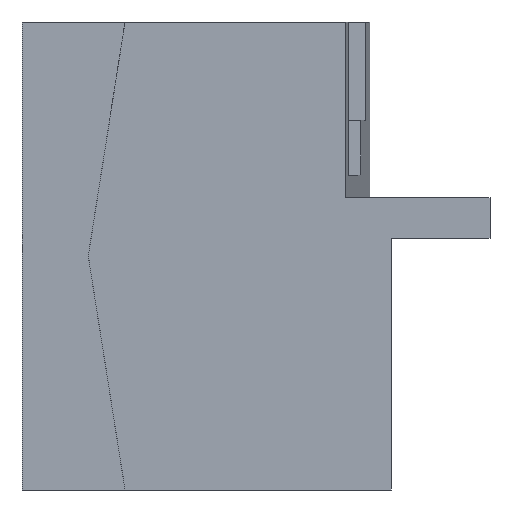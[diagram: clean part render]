
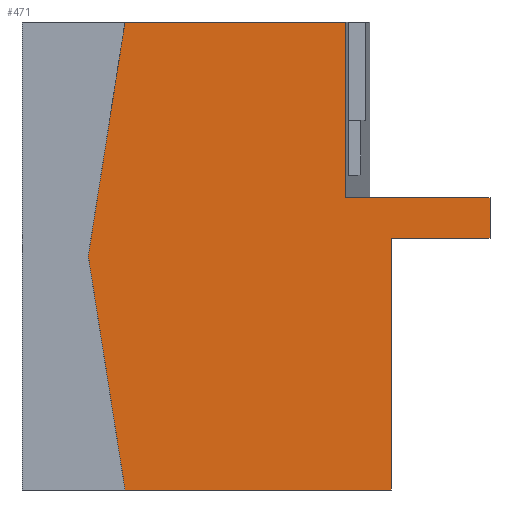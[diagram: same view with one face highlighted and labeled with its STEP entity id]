
A CAD part, left-side view. The second image highlights one B-rep face of the part: STEP entity #471.
In plain terms, the highlighted planar face has unit normal (-1, 0, 0).
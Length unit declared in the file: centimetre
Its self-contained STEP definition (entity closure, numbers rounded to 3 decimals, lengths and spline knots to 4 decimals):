
#10 = LINE ( 'NONE', #376, #453 ) ;
#25 = VECTOR ( 'NONE', #33, 100. ) ;
#33 = DIRECTION ( 'NONE',  ( 0., -1., 0. ) ) ;
#59 = ORIENTED_EDGE ( 'NONE', *, *, #71, .F. ) ;
#71 = EDGE_CURVE ( 'NONE', #159, #1124, #10, .T. ) ;
#77 = DIRECTION ( 'NONE',  ( 1., 0., 0. ) ) ;
#92 = DIRECTION ( 'NONE',  ( 0., 0., -1. ) ) ;
#94 = CARTESIAN_POINT ( 'NONE',  ( 0., 0., 624.902 ) ) ;
#97 = CARTESIAN_POINT ( 'NONE',  ( 0., 1000., 1000. ) ) ;
#120 = DIRECTION ( 'NONE',  ( 0., 0., -1. ) ) ;
#122 = ORIENTED_EDGE ( 'NONE', *, *, #714, .T. ) ;
#136 = ORIENTED_EDGE ( 'NONE', *, *, #593, .F. ) ;
#142 = LINE ( 'NONE', #1017, #1044 ) ;
#143 = CARTESIAN_POINT ( 'NONE',  ( 0., 211.1203, 0. ) ) ;
#147 = DIRECTION ( 'NONE',  ( 0., -1., 0. ) ) ;
#159 = VERTEX_POINT ( 'NONE', #94 ) ;
#173 = VECTOR ( 'NONE', #493, 100. ) ;
#176 = LINE ( 'NONE', #705, #849 ) ;
#200 = VERTEX_POINT ( 'NONE', #143 ) ;
#201 = CARTESIAN_POINT ( 'NONE',  ( 0., 779.7898, 0. ) ) ;
#207 = LINE ( 'NONE', #590, #25 ) ;
#213 = LINE ( 'NONE', #848, #173 ) ;
#214 = CARTESIAN_POINT ( 'NONE',  ( 0., 211.1203, 538.0121 ) ) ;
#220 = CARTESIAN_POINT ( 'NONE',  ( 0., 858.4872, 500. ) ) ;
#246 = EDGE_CURVE ( 'NONE', #1124, #310, #671, .T. ) ;
#254 = VERTEX_POINT ( 'NONE', #220 ) ;
#275 = LINE ( 'NONE', #1150, #614 ) ;
#290 = AXIS2_PLACEMENT_3D ( 'NONE', #629, #77, #92 ) ;
#310 = VERTEX_POINT ( 'NONE', #214 ) ;
#336 = VECTOR ( 'NONE', #752, 100. ) ;
#347 = VECTOR ( 'NONE', #466, 100. ) ;
#374 = PLANE ( 'NONE',  #290 ) ;
#376 = CARTESIAN_POINT ( 'NONE',  ( 0., 0., 1000. ) ) ;
#432 = ORIENTED_EDGE ( 'NONE', *, *, #1123, .T. ) ;
#451 = ORIENTED_EDGE ( 'NONE', *, *, #522, .F. ) ;
#453 = VECTOR ( 'NONE', #120, 100. ) ;
#455 = FACE_OUTER_BOUND ( 'NONE', #465, .T. ) ;
#465 = EDGE_LOOP ( 'NONE', ( #122, #136, #1140, #59, #1045, #432, #451, #974, #909 ) ) ;
#466 = DIRECTION ( 'NONE',  ( 0., -1., 0. ) ) ;
#471 = ADVANCED_FACE ( 'NONE', ( #455 ), #374, .F. ) ;
#493 = DIRECTION ( 'NONE',  ( 0., 0., -1. ) ) ;
#504 = EDGE_CURVE ( 'NONE', #254, #632, #176, .T. ) ;
#509 = CARTESIAN_POINT ( 'NONE',  ( 0., 211.1203, 538.0121 ) ) ;
#522 = EDGE_CURVE ( 'NONE', #632, #948, #724, .T. ) ;
#542 = DIRECTION ( 'NONE',  ( 0., 0.155, 0.988 ) ) ;
#557 = CARTESIAN_POINT ( 'NONE',  ( 0., 308.7349, 1000. ) ) ;
#590 = CARTESIAN_POINT ( 'NONE',  ( 0., 308.7349, 624.902 ) ) ;
#593 = EDGE_CURVE ( 'NONE', #310, #200, #213, .T. ) ;
#614 = VECTOR ( 'NONE', #542, 100. ) ;
#629 = CARTESIAN_POINT ( 'NONE',  ( 0., 1000., 1000. ) ) ;
#632 = VERTEX_POINT ( 'NONE', #651 ) ;
#649 = VERTEX_POINT ( 'NONE', #201 ) ;
#651 = CARTESIAN_POINT ( 'NONE',  ( 0., 779.7898, 1000. ) ) ;
#671 = LINE ( 'NONE', #509, #336 ) ;
#682 = LINE ( 'NONE', #950, #1051 ) ;
#695 = VERTEX_POINT ( 'NONE', #735 ) ;
#705 = CARTESIAN_POINT ( 'NONE',  ( 0., 779.7898, 1000. ) ) ;
#710 = DIRECTION ( 'NONE',  ( 0., -0.155, 0.988 ) ) ;
#714 = EDGE_CURVE ( 'NONE', #649, #200, #682, .T. ) ;
#724 = LINE ( 'NONE', #97, #347 ) ;
#735 = CARTESIAN_POINT ( 'NONE',  ( 0., 308.7349, 624.902 ) ) ;
#752 = DIRECTION ( 'NONE',  ( 0., 1., 0. ) ) ;
#848 = CARTESIAN_POINT ( 'NONE',  ( 0., 211.1203, 538.0121 ) ) ;
#849 = VECTOR ( 'NONE', #710, 100. ) ;
#909 = ORIENTED_EDGE ( 'NONE', *, *, #937, .F. ) ;
#937 = EDGE_CURVE ( 'NONE', #649, #254, #275, .T. ) ;
#941 = DIRECTION ( 'NONE',  ( 0., 0., 1. ) ) ;
#948 = VERTEX_POINT ( 'NONE', #557 ) ;
#950 = CARTESIAN_POINT ( 'NONE',  ( 0., 1000., 0. ) ) ;
#974 = ORIENTED_EDGE ( 'NONE', *, *, #504, .F. ) ;
#1007 = CARTESIAN_POINT ( 'NONE',  ( 0., 0., 538.0121 ) ) ;
#1017 = CARTESIAN_POINT ( 'NONE',  ( 0., 308.7349, 624.902 ) ) ;
#1044 = VECTOR ( 'NONE', #941, 100. ) ;
#1045 = ORIENTED_EDGE ( 'NONE', *, *, #1094, .F. ) ;
#1051 = VECTOR ( 'NONE', #147, 100. ) ;
#1094 = EDGE_CURVE ( 'NONE', #695, #159, #207, .T. ) ;
#1123 = EDGE_CURVE ( 'NONE', #695, #948, #142, .T. ) ;
#1124 = VERTEX_POINT ( 'NONE', #1007 ) ;
#1140 = ORIENTED_EDGE ( 'NONE', *, *, #246, .F. ) ;
#1150 = CARTESIAN_POINT ( 'NONE',  ( 0., 858.4872, 500. ) ) ;
